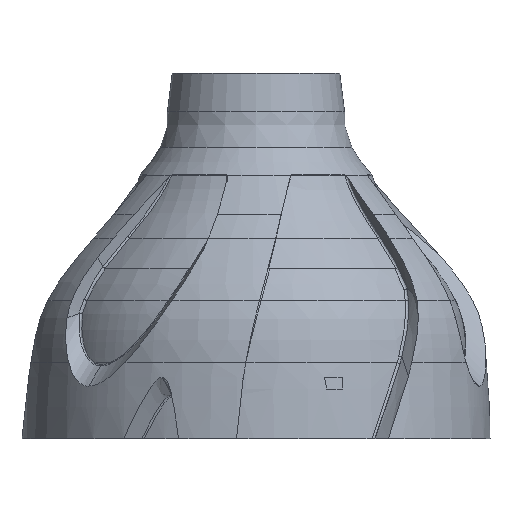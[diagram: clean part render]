
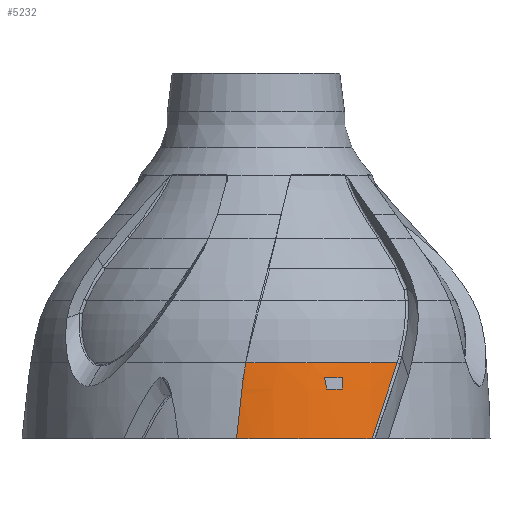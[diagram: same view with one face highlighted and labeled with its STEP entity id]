
A CAD part, left-side view. The second image highlights one B-rep face of the part: STEP entity #5232.
In plain terms, the highlighted face is a revolution surface.
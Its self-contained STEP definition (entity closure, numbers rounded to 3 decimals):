
#1004 = VERTEX_POINT('',#1005);
#1005 = CARTESIAN_POINT('',(-44.775,4.459,103.15));
#1030 = EDGE_CURVE('',#1031,#1004,#1033,.T.);
#1031 = VERTEX_POINT('',#1032);
#1032 = CARTESIAN_POINT('',(-37.901,-24.252,103.15));
#1033 = B_SPLINE_CURVE_WITH_KNOTS('',4,(#1034,#1035,#1036,#1037,#1038,
    #1039,#1040,#1041,#1042,#1043,#1044,#1045,#1046,#1047),
  .UNSPECIFIED.,.F.,.F.,(5,3,3,3,5),(0.,0.251,0.501,
    0.751,1.),.UNSPECIFIED.);
#1034 = CARTESIAN_POINT('',(-33.499,-30.042,103.15));
#1035 = CARTESIAN_POINT('',(-35.065,-28.296,103.15));
#1036 = CARTESIAN_POINT('',(-36.509,-26.441,103.15));
#1037 = CARTESIAN_POINT('',(-37.821,-24.49,103.15));
#1038 = CARTESIAN_POINT('',(-40.157,-20.433,103.15));
#1039 = CARTESIAN_POINT('',(-41.183,-18.329,103.15));
#1040 = CARTESIAN_POINT('',(-42.06,-16.158,103.15));
#1041 = CARTESIAN_POINT('',(-43.507,-11.715,103.15));
#1042 = CARTESIAN_POINT('',(-44.077,-9.444,103.15));
#1043 = CARTESIAN_POINT('',(-44.488,-7.139,103.15));
#1044 = CARTESIAN_POINT('',(-44.987,-2.503,103.15));
#1045 = CARTESIAN_POINT('',(-45.077,-0.173,103.15));
#1046 = CARTESIAN_POINT('',(-45.005,2.158,103.15));
#1047 = CARTESIAN_POINT('',(-44.774,4.473,103.15));
#5189 = VERTEX_POINT('',#5190);
#5190 = CARTESIAN_POINT('',(-44.466,3.309,
    112.319));
#5196 = EDGE_CURVE('',#5189,#1004,#5197,.T.);
#5197 = B_SPLINE_CURVE_WITH_KNOTS('',7,(#5198,#5199,#5200,#5201,#5202,
    #5203,#5204,#5205),.UNSPECIFIED.,.F.,.F.,(8,8),(117.172,
    126.14),.PIECEWISE_BEZIER_KNOTS.);
#5198 = CARTESIAN_POINT('',(-44.466,3.309,
    112.319));
#5199 = CARTESIAN_POINT('',(-44.531,3.51,
    110.997));
#5200 = CARTESIAN_POINT('',(-44.591,3.7,109.673
    ));
#5201 = CARTESIAN_POINT('',(-44.644,3.878,
    108.345));
#5202 = CARTESIAN_POINT('',(-44.691,4.044,
    107.015));
#5203 = CARTESIAN_POINT('',(-44.73,4.199,
    105.681));
#5204 = CARTESIAN_POINT('',(-44.759,4.342,
    104.343));
#5205 = CARTESIAN_POINT('',(-44.777,4.474,103.));
#5232 = ADVANCED_FACE('',(#5233,#5282),#5324,.T.);
#5233 = FACE_BOUND('',#5234,.T.);
#5234 = EDGE_LOOP('',(#5235,#5246,#5261,#5262,#5263));
#5235 = ORIENTED_EDGE('',*,*,#5236,.F.);
#5236 = EDGE_CURVE('',#5237,#5239,#5241,.T.);
#5237 = VERTEX_POINT('',#5238);
#5238 = CARTESIAN_POINT('',(-44.098,2.137,119.));
#5239 = VERTEX_POINT('',#5240);
#5240 = CARTESIAN_POINT('',(-32.869,-29.477,119.));
#5241 = CIRCLE('',#5242,44.15);
#5242 = AXIS2_PLACEMENT_3D('',#5243,#5244,#5245);
#5243 = CARTESIAN_POINT('',(0.,0.,119.));
#5244 = DIRECTION('',(0.,0.,1.));
#5245 = DIRECTION('',(1.,0.,-0.));
#5246 = ORIENTED_EDGE('',*,*,#5247,.T.);
#5247 = EDGE_CURVE('',#5237,#5189,#5248,.T.);
#5248 = ( BOUNDED_CURVE() B_SPLINE_CURVE(11,(#5249,#5250,#5251,#5252,
    #5253,#5254,#5255,#5256,#5257,#5258,#5259,#5260),.UNSPECIFIED.,.F.,
.F.) B_SPLINE_CURVE_WITH_KNOTS((12,12),(110.674,117.172)
,.PIECEWISE_BEZIER_KNOTS.) CURVE() GEOMETRIC_REPRESENTATION_ITEM() 
RATIONAL_B_SPLINE_CURVE((1.,1.,1.,1.,1.,
    1.,1.,1.,1.,1.,1.,1.
)) REPRESENTATION_ITEM('') );
#5249 = CARTESIAN_POINT('',(-44.098,2.137,119.));
#5250 = CARTESIAN_POINT('',(-44.134,2.259,118.394
    ));
#5251 = CARTESIAN_POINT('',(-44.17,2.377,
    117.789));
#5252 = CARTESIAN_POINT('',(-44.205,2.492,
    117.183));
#5253 = CARTESIAN_POINT('',(-44.24,2.604,
    116.576));
#5254 = CARTESIAN_POINT('',(-44.275,2.712,
    115.971));
#5255 = CARTESIAN_POINT('',(-44.309,2.818,
    115.362));
#5256 = CARTESIAN_POINT('',(-44.342,2.921,
    114.755));
#5257 = CARTESIAN_POINT('',(-44.374,3.022,
    114.146));
#5258 = CARTESIAN_POINT('',(-44.406,3.12,
    113.538));
#5259 = CARTESIAN_POINT('',(-44.437,3.215,112.929
    ));
#5260 = CARTESIAN_POINT('',(-44.466,3.309,
    112.319));
#5261 = ORIENTED_EDGE('',*,*,#5196,.T.);
#5262 = ORIENTED_EDGE('',*,*,#1030,.F.);
#5263 = ORIENTED_EDGE('',*,*,#5264,.T.);
#5264 = EDGE_CURVE('',#1031,#5239,#5265,.T.);
#5265 = B_SPLINE_CURVE_WITH_KNOTS('',8,(#5266,#5267,#5268,#5269,#5270,
    #5271,#5272,#5273,#5274,#5275,#5276,#5277,#5278,#5279,#5280,#5281),
  .UNSPECIFIED.,.F.,.F.,(9,7,9),(201.44,208.6,
    216.496),.UNSPECIFIED.);
#5266 = CARTESIAN_POINT('',(-37.945,-24.191,103.));
#5267 = CARTESIAN_POINT('',(-37.679,-24.567,
    103.92));
#5268 = CARTESIAN_POINT('',(-37.406,-24.935,
    104.845));
#5269 = CARTESIAN_POINT('',(-37.126,-25.295,
    105.774));
#5270 = CARTESIAN_POINT('',(-36.84,-25.646,
    106.709));
#5271 = CARTESIAN_POINT('',(-36.548,-25.99,
    107.647));
#5272 = CARTESIAN_POINT('',(-36.25,-26.324,
    108.591));
#5273 = CARTESIAN_POINT('',(-35.948,-26.65,109.537
    ));
#5274 = CARTESIAN_POINT('',(-35.305,-27.318,
    111.537));
#5275 = CARTESIAN_POINT('',(-34.963,-27.657,
    112.59));
#5276 = CARTESIAN_POINT('',(-34.618,-27.986,
    113.647));
#5277 = CARTESIAN_POINT('',(-34.269,-28.305,
    114.71));
#5278 = CARTESIAN_POINT('',(-33.919,-28.613,
    115.776));
#5279 = CARTESIAN_POINT('',(-33.568,-28.911,
    116.847));
#5280 = CARTESIAN_POINT('',(-33.218,-29.199,
    117.921));
#5281 = CARTESIAN_POINT('',(-32.869,-29.477,119.));
#5282 = FACE_BOUND('',#5283,.T.);
#5283 = EDGE_LOOP('',(#5284,#5296,#5306,#5316));
#5284 = ORIENTED_EDGE('',*,*,#5285,.F.);
#5285 = EDGE_CURVE('',#5286,#5288,#5290,.T.);
#5286 = VERTEX_POINT('',#5287);
#5287 = CARTESIAN_POINT('',(-40.545,-18.,115.9));
#5288 = VERTEX_POINT('',#5289);
#5289 = CARTESIAN_POINT('',(-42.,-14.28,115.9));
#5290 = B_SPLINE_CURVE_WITH_KNOTS('',4,(#5291,#5292,#5293,#5294,#5295),
  .UNSPECIFIED.,.F.,.F.,(5,5),(0.,1.),.PIECEWISE_BEZIER_KNOTS.);
#5291 = CARTESIAN_POINT('',(-40.545,-18.,115.9));
#5292 = CARTESIAN_POINT('',(-40.951,-17.087,115.9));
#5293 = CARTESIAN_POINT('',(-41.328,-16.162,115.9));
#5294 = CARTESIAN_POINT('',(-41.678,-15.226,115.9));
#5295 = CARTESIAN_POINT('',(-42.,-14.28,115.9));
#5296 = ORIENTED_EDGE('',*,*,#5297,.F.);
#5297 = EDGE_CURVE('',#5298,#5286,#5300,.T.);
#5298 = VERTEX_POINT('',#5299);
#5299 = CARTESIAN_POINT('',(-40.715,-18.,113.5));
#5300 = B_SPLINE_CURVE_WITH_KNOTS('',4,(#5301,#5302,#5303,#5304,#5305),
  .UNSPECIFIED.,.F.,.F.,(5,5),(0.,1.),.PIECEWISE_BEZIER_KNOTS.);
#5301 = CARTESIAN_POINT('',(-40.715,-18.,113.5));
#5302 = CARTESIAN_POINT('',(-40.674,-18.,114.1));
#5303 = CARTESIAN_POINT('',(-40.632,-18.,114.7));
#5304 = CARTESIAN_POINT('',(-40.589,-18.,115.3));
#5305 = CARTESIAN_POINT('',(-40.545,-18.,115.9));
#5306 = ORIENTED_EDGE('',*,*,#5307,.T.);
#5307 = EDGE_CURVE('',#5298,#5308,#5310,.T.);
#5308 = VERTEX_POINT('',#5309);
#5309 = CARTESIAN_POINT('',(-42.,-14.756,113.5));
#5310 = B_SPLINE_CURVE_WITH_KNOTS('',4,(#5311,#5312,#5313,#5314,#5315),
  .UNSPECIFIED.,.F.,.F.,(5,5),(0.,1.),.PIECEWISE_BEZIER_KNOTS.);
#5311 = CARTESIAN_POINT('',(-40.715,-18.,113.5));
#5312 = CARTESIAN_POINT('',(-41.068,-17.202,113.5));
#5313 = CARTESIAN_POINT('',(-41.4,-16.395,113.5));
#5314 = CARTESIAN_POINT('',(-41.711,-15.579,113.5));
#5315 = CARTESIAN_POINT('',(-42.,-14.756,113.5));
#5316 = ORIENTED_EDGE('',*,*,#5317,.T.);
#5317 = EDGE_CURVE('',#5308,#5288,#5318,.T.);
#5318 = B_SPLINE_CURVE_WITH_KNOTS('',4,(#5319,#5320,#5321,#5322,#5323),
  .UNSPECIFIED.,.F.,.F.,(5,5),(0.,1.),.PIECEWISE_BEZIER_KNOTS.);
#5319 = CARTESIAN_POINT('',(-42.,-14.756,113.5));
#5320 = CARTESIAN_POINT('',(-42.,-14.643,114.101));
#5321 = CARTESIAN_POINT('',(-42.,-14.525,114.701));
#5322 = CARTESIAN_POINT('',(-42.,-14.404,115.301));
#5323 = CARTESIAN_POINT('',(-42.,-14.28,115.9));
#5324 = SURFACE_OF_REVOLUTION('',#5325,#5330);
#5325 = B_SPLINE_CURVE_WITH_KNOTS('',3,(#5326,#5327,#5328,#5329),
  .UNSPECIFIED.,.F.,.F.,(4,4),(0.,1.),.PIECEWISE_BEZIER_KNOTS.);
#5326 = CARTESIAN_POINT('',(45.,0.,103.));
#5327 = CARTESIAN_POINT('',(44.875,0.,108.333));
#5328 = CARTESIAN_POINT('',(44.518,0.,113.667));
#5329 = CARTESIAN_POINT('',(44.15,0.,119.));
#5330 = AXIS1_PLACEMENT('',#5331,#5332);
#5331 = CARTESIAN_POINT('',(0.,0.,0.));
#5332 = DIRECTION('',(0.,0.,1.));
